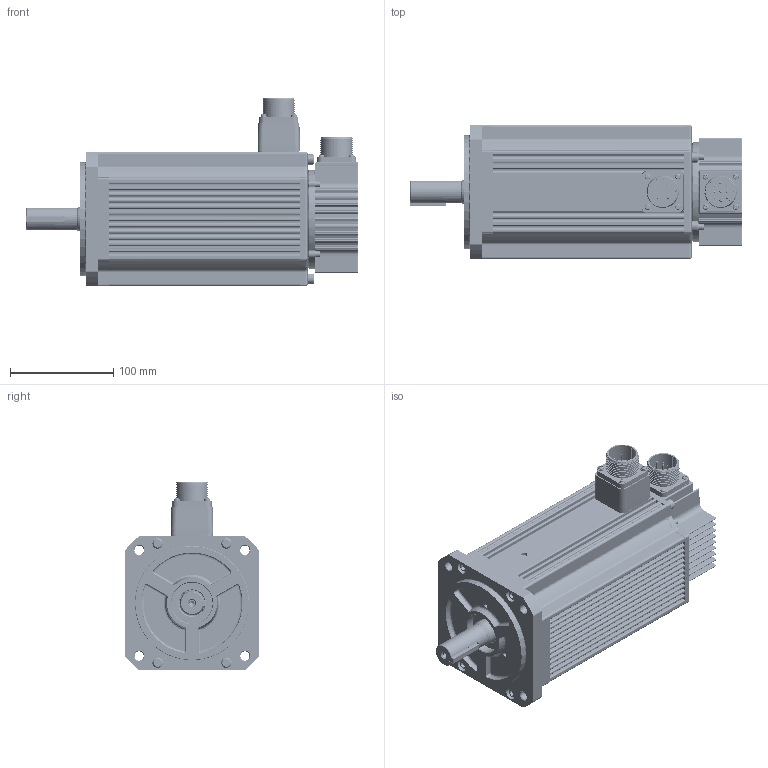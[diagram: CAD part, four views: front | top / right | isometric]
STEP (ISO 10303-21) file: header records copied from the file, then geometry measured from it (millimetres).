
FILE_DESCRIPTION (( 'STEP AP203' ), '1' );
FILE_NAME ('130-DXT-A6HK1.STEP', '2022-06-28T18:26:03', ( '' ), ( '' ), 'SwSTEP 2.0', 'SolidWorks 2011', '' );
FILE_SCHEMA (( 'CONFIG_CONTROL_DESIGN' ));
Products named in the file (1): 130-DXT-A6HK1
Bounding box: 321.8 x 130.4 x 182.96 mm (x, y, z)
Surface area: 481411 mm2 (no closed solid volume)
Topology: 0 solids, 106 shells, 3483 faces, 8700 edges, 5390 vertices
Faces by surface type: cylinder 1377, plane 1099, cone 512, bspline 463, torus 32
Entity records: 146206 total; most frequent: CARTESIAN_POINT 67679, ORIENTED_EDGE 16952, DIRECTION 15457, EDGE_CURVE 8486, AXIS2_PLACEMENT_3D 5919, VERTEX_POINT 5383, EDGE_LOOP 3905, VECTOR 3619
